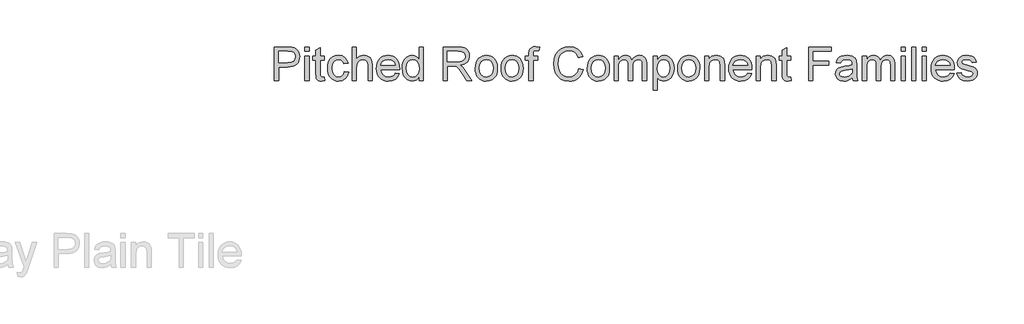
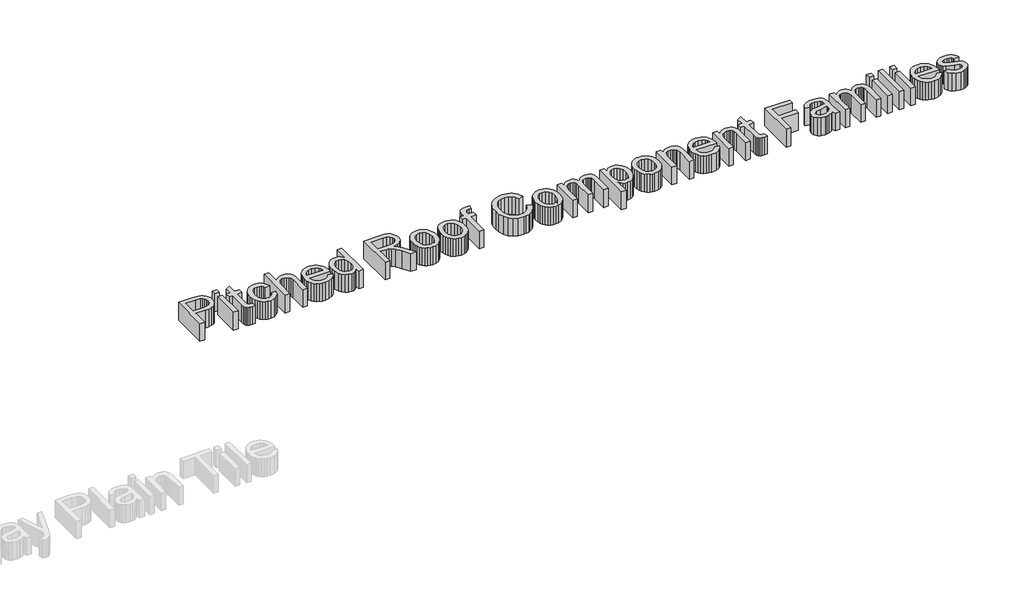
# One storey, part 4 of 4: 1 proxy.
"""IFC4 building model written with IfcOpenShell, lengths in millimetres."""

from ifc_helpers import new_model, si_unit, frame, origin, place, context, project, spatial, polyline, outline, extrude, element, save

model = new_model("IFC4")

# Units and contexts
model_context = context("Model", 3, world=origin())
ifc_project = project(units=[si_unit("LENGTHUNIT", "METRE", prefix="MILLI")], contexts=[model_context])

# Site, building, storey
site = spatial("IfcSite", under=ifc_project)
building = spatial("IfcBuilding", under=site)
storey = spatial("IfcBuildingStorey", under=building, Name="Marley Clay Plain Tile", Elevation=3000.0)

# Proxy
placement = place(None, origin())
element("IfcBuildingElementProxy", 1, Name="600mm Arial", ObjectType="600mm Arial", at=placement, inside=storey, context=model_context, shape_type="SweptSolid", body=[
    extrude(outline(polyline([(-10896.0304047, 7604.3149333), (-10896.0304047, 7899.6995487), (-10786.5592509, 7899.6995487), (-10742.4246355, 7896.8870487), (-10722.7461499, 7891.6316401), (-10706.5472316, 7883.0769526), (-10693.5033614, 7870.835366), (-10683.2900201, 7854.5192603), (-10676.6914624, 7835.273467), (-10674.4919432, 7814.242818), (-10680.432448, 7779.429116), (-10687.858079, 7764.1992483), (-10698.2539624, 7750.4207026), (-10712.5260477, 7738.9994285), (-10731.5802845, 7730.8413757), (-10755.4166727, 7725.9465439), (-10784.0352124, 7724.3149333), (-10859.1073278, 7724.3149333), (-10859.1073278, 7604.3149333), (-10896.0304047, 7604.3149333)]), holes=[polyline([(-10859.1073278, 7761.2380103), (-10781.8717509, 7761.2380103), (-10749.1313663, 7764.6274333), (-10727.4967509, 7774.7957026), (-10715.4354528, 7791.1118083), (-10711.4150201, 7812.944741), (-10713.7858134, 7829.5312795), (-10720.8981932, 7843.5216641), (-10731.8687461, 7854.0505103), (-10745.8140586, 7860.2524333), (-10782.7371355, 7862.7764718), (-10859.1073278, 7862.7764718), (-10859.1073278, 7761.2380103)])]), frame((0.0, 0.0, 3000.0), z_axis=(0.0, 0.0, 1.0), x_axis=(1.0, 0.0, 0.0)), (0.0, 0.0, 1.0), 150.0),
    extrude(outline(polyline([(-10628.338097, 7604.3149333), (-10628.338097, 7821.2380103), (-10591.4150201, 7821.2380103), (-10591.4150201, 7604.3149333), (-10628.338097, 7604.3149333)])), frame((0.0, 0.0, 3000.0), z_axis=(0.0, 0.0, 1.0), x_axis=(1.0, 0.0, 0.0)), (0.0, 0.0, 1.0), 150.0),
    extrude(outline(polyline([(-10628.338097, 7862.7764718), (-10628.338097, 7899.6995487), (-10591.4150201, 7899.6995487), (-10591.4150201, 7862.7764718), (-10628.338097, 7862.7764718)])), frame((0.0, 0.0, 3000.0), z_axis=(0.0, 0.0, 1.0), x_axis=(1.0, 0.0, 0.0)), (0.0, 0.0, 1.0), 150.0),
    extrude(outline(polyline([(-10457.5688663, 7635.1082026), (-10452.9534816, 7603.2332026), (-10480.5736739, 7599.6995487), (-10498.2960297, 7601.2320007), (-10511.5111739, 7605.8293564), (-10520.8501163, 7612.914693), (-10526.9438663, 7621.9110872), (-10530.2972316, 7637.3618083), (-10531.4150201, 7663.8101257), (-10531.4150201, 7784.3149333), (-10559.1073278, 7784.3149333), (-10559.1073278, 7821.2380103), (-10531.4150201, 7821.2380103), (-10531.4150201, 7873.9543564), (-10494.4919432, 7895.6610872), (-10494.4919432, 7821.2380103), (-10457.5688663, 7821.2380103), (-10457.5688663, 7784.3149333), (-10494.4919432, 7784.3149333), (-10494.4919432, 7664.8918564), (-10492.5448278, 7645.8533949), (-10486.2347316, 7639.1106064), (-10473.650597, 7636.6226257), (-10457.5688663, 7635.1082026)])), frame((0.0, 0.0, 3000.0), z_axis=(0.0, 0.0, 1.0), x_axis=(1.0, 0.0, 0.0)), (0.0, 0.0, 1.0), 150.0),
    extrude(outline(polyline([(-10282.1842509, 7682.7764718), (-10245.2611739, 7678.1610872), (-10255.5556451, 7645.3215439), (-10274.900597, 7620.5048372), (-10301.4751163, 7604.9008708), (-10333.4582893, 7599.6995487), (-10354.1666727, 7601.5137014), (-10372.7341307, 7606.9561593), (-10389.1606631, 7616.0269225), (-10403.4462701, 7628.725991), (-10415.0095213, 7644.8144826), (-10423.2689864, 7664.0535151), (-10428.2246655, 7686.4430884), (-10429.8765586, 7711.9832026), (-10427.0550441, 7744.8407747), (-10418.5905009, 7773.3173372), (-10404.3477124, 7796.3131305), (-10384.1914624, 7812.7283949), (-10360.0778807, 7822.5721449), (-10333.963097, 7825.8533949), (-10302.7641788, 7821.3461833), (-10277.8212701, 7807.8245487), (-10259.9276403, 7786.0096449), (-10249.8765586, 7756.6226257), (-10286.7996355, 7752.007241), (-10293.4973518, 7768.1160151), (-10303.9270393, 7779.663491), (-10317.5117749, 7786.6136112), (-10333.6746355, 7788.930318), (-10357.5358134, 7784.3690199), (-10376.4751163, 7770.6851257), (-10388.8338903, 7747.1394526), (-10392.9534816, 7712.992818), (-10388.9240345, 7678.3864478), (-10376.8356932, 7654.7596449), (-10358.2389384, 7641.1568805), (-10334.6842509, 7636.6226257), (-10315.5646595, 7639.4531545), (-10299.8885778, 7647.944741), (-10288.4853326, 7662.3137314), (-10282.1842509, 7682.7764718)])), frame((0.0, 0.0, 3000.0), z_axis=(0.0, 0.0, 1.0), x_axis=(1.0, 0.0, 0.0)), (0.0, 0.0, 1.0), 150.0),
    extrude(outline(polyline([(-10212.9534816, 7604.3149333), (-10212.9534816, 7899.6995487), (-10176.0304047, 7899.6995487), (-10176.0304047, 7791.0937795), (-10162.4682052, 7806.3011112), (-10147.2383374, 7817.163491), (-10130.3408013, 7823.6809189), (-10111.775597, 7825.8533949), (-10089.4739143, 7823.4826016), (-10070.3092509, 7816.3702218), (-10055.2191066, 7805.0751497), (-10045.1409816, 7790.1562795), (-10039.4618951, 7769.6574814), (-10037.5688663, 7741.6226257), (-10037.5688663, 7604.3149333), (-10074.4919432, 7604.3149333), (-10074.4919432, 7737.8005103), (-10077.4306451, 7760.913491), (-10086.2467509, 7776.742818), (-10100.4534816, 7785.883443), (-10119.5640586, 7788.930318), (-10135.1680249, 7786.8750295), (-10149.8164624, 7780.7091641), (-10161.9498759, 7771.0276737), (-10170.0087701, 7758.4255103), (-10174.5249961, 7741.6767122), (-10176.0304047, 7719.555318), (-10176.0304047, 7604.3149333), (-10212.9534816, 7604.3149333)])), frame((0.0, 0.0, 3000.0), z_axis=(0.0, 0.0, 1.0), x_axis=(1.0, 0.0, 0.0)), (0.0, 0.0, 1.0), 150.0),
    extrude(outline(polyline([(-9834.9246355, 7668.930318), (-9798.7227124, 7664.3149333), (-9811.7665826, 7637.0372891), (-9832.5808855, 7616.6466641), (-9860.6968711, 7603.9363276), (-9895.6457893, 7599.6995487), (-9918.5559456, 7601.527223), (-9938.9691066, 7607.0102458), (-9956.8852725, 7616.1486172), (-9972.3044432, 7628.9423372), (-9984.7037821, 7645.035336), (-9993.5604528, 7664.0715439), (-9998.8744552, 7686.050961), (-10000.6457893, 7710.9735872), (-9998.8564263, 7736.7413156), (-9993.4883374, 7759.4531545), (-9984.5415225, 7779.109104), (-9972.0159816, 7795.7091641), (-9956.6373759, 7808.8972651), (-9939.1313663, 7818.3173372), (-9919.4979528, 7823.9693805), (-9897.7371355, 7825.8533949), (-9876.6771896, 7823.9738877), (-9857.6319672, 7818.335366), (-9840.6014684, 7808.93783), (-9825.5856932, 7795.7812795), (-9813.3283314, 7779.2172771), (-9804.573073, 7759.5973853), (-9799.3199179, 7736.921604), (-9797.5688663, 7711.1899333), (-9797.7852124, 7701.2380103), (-9963.7227124, 7701.2380103), (-9957.3314864, 7673.5997891), (-9942.4847316, 7653.2812795), (-9921.057448, 7640.7872891), (-9894.9246355, 7636.6226257), (-9875.2731932, 7638.5517122), (-9858.7227124, 7644.3389718), (-9845.2731932, 7654.3449814), (-9834.9246355, 7668.930318)]), holes=[polyline([(-9963.7227124, 7738.1610872), (-9834.4919432, 7738.1610872), (-9839.4859336, 7757.6682987), (-9849.275597, 7771.6226257), (-9870.8020393, 7784.6033949), (-9897.8813663, 7788.930318), (-9922.7701884, 7785.4777939), (-9943.3501163, 7775.1202218), (-9957.6560057, 7758.9753901), (-9963.7227124, 7738.1610872)])]), frame((0.0, 0.0, 3000.0), z_axis=(0.0, 0.0, 1.0), x_axis=(1.0, 0.0, 0.0)), (0.0, 0.0, 1.0), 150.0),
    extrude(outline(polyline([(-9626.7996355, 7604.3149333), (-9626.7996355, 7639.1466641), (-9637.846811, 7621.8885511), (-9651.228722, 7609.5613276), (-9666.9453687, 7602.1649934), (-9684.9967509, 7599.6995487), (-9708.8669432, 7603.2692603), (-9730.7179047, 7613.9783949), (-9749.2155009, 7631.0787555), (-9763.025597, 7653.8221449), (-9771.6253566, 7681.289092), (-9774.4919432, 7712.5601257), (-9771.8507172, 7743.4435391), (-9763.9270393, 7771.3341641), (-9750.7299239, 7794.6454622), (-9732.2683855, 7811.7908949), (-9709.9396595, 7822.3377699), (-9685.1409816, 7825.8533949), (-9667.0760778, 7823.3383708), (-9651.1025201, 7815.7932987), (-9637.5628566, 7804.2277939), (-9626.7996355, 7789.6514718), (-9626.7996355, 7899.6995487), (-9589.8765586, 7899.6995487), (-9589.8765586, 7604.3149333), (-9626.7996355, 7604.3149333)]), holes=[polyline([(-9737.5688663, 7712.7043564), (-9733.4042028, 7679.3059189), (-9720.9102124, 7655.5529141), (-9702.7551643, 7641.3551978), (-9681.6073278, 7636.6226257), (-9660.4685057, 7641.1388516), (-9642.7731932, 7654.6875295), (-9630.7930249, 7677.5210632), (-9626.7996355, 7709.8918564), (-9630.8651403, 7745.2824814), (-9643.0616547, 7769.819741), (-9661.2076884, 7784.1526737), (-9683.1217509, 7788.930318), (-9704.4859336, 7784.3419766), (-9721.9919432, 7770.5769526), (-9733.6746355, 7746.9321208), (-9737.5688663, 7712.7043564)])]), frame((0.0, 0.0, 3000.0), z_axis=(0.0, 0.0, 1.0), x_axis=(1.0, 0.0, 0.0)), (0.0, 0.0, 1.0), 150.0),
    extrude(outline(polyline([(-9414.4919432, 7604.3149333), (-9414.4919432, 7899.6995487), (-9287.2082893, 7899.6995487), (-9252.9985538, 7897.7073612), (-9228.1097316, 7891.7307987), (-9209.9186259, 7880.6971449), (-9195.8020393, 7863.5336833), (-9186.7425441, 7842.2506305), (-9183.7227124, 7818.8582026), (-9188.7257172, 7789.7596449), (-9203.7347316, 7765.6370487), (-9215.1041727, 7755.8068204), (-9229.2004768, 7747.9507507), (-9265.5736739, 7738.1610872), (-9244.588097, 7722.367818), (-9214.6602124, 7684.3630103), (-9165.4054047, 7604.3149333), (-9208.3140586, 7604.3149333), (-9246.7515586, 7665.5408949), (-9274.5159816, 7706.069741), (-9294.0231932, 7725.2163757), (-9311.5832893, 7732.2476257), (-9333.0015586, 7733.5457026), (-9377.5688663, 7733.5457026), (-9377.5688663, 7604.3149333), (-9414.4919432, 7604.3149333)]), holes=[polyline([(-9377.5688663, 7770.4687795), (-9294.9246355, 7770.4687795), (-9271.1896595, 7771.7758708), (-9252.7731932, 7775.6971449), (-9238.9090105, 7782.4940199), (-9228.8308855, 7792.4279141), (-9222.6920634, 7804.4441401), (-9220.6457893, 7817.4880103), (-9224.5490345, 7835.4988276), (-9236.2587701, 7850.0120487), (-9256.4060057, 7859.585366), (-9285.6217509, 7862.7764718), (-9377.5688663, 7862.7764718), (-9377.5688663, 7770.4687795)])]), frame((0.0, 0.0, 3000.0), z_axis=(0.0, 0.0, 1.0), x_axis=(1.0, 0.0, 0.0)), (0.0, 0.0, 1.0), 150.0),
    extrude(outline(polyline([(-9132.9534816, 7712.7764718), (-9130.9567869, 7740.8699213), (-9124.9667028, 7765.0781545), (-9114.9832292, 7785.4011713), (-9101.0063663, 7801.8389718), (-9086.9348518, 7812.3452819), (-9071.4030009, 7819.8497891), (-9054.4108134, 7824.3524934), (-9035.9582893, 7825.8533949), (-9015.5879468, 7824.0257206), (-8997.1692268, 7818.5426978), (-8980.7021295, 7809.4043264), (-8966.1866547, 7796.6106064), (-8954.3394492, 7780.5942302), (-8945.8771595, 7761.7878901), (-8940.7997857, 7740.191586), (-8939.1073278, 7715.805318), (-8942.1001163, 7678.5036353), (-8951.0784816, 7650.1082026), (-8965.7810057, 7628.8431785), (-8985.9462701, 7612.9327218), (-9009.8975922, 7603.007842), (-9035.9582893, 7599.6995487), (-9056.6261078, 7601.5204622), (-9075.2161018, 7606.9832026), (-9091.7282713, 7616.0877699), (-9106.1626163, 7628.8341641), (-9117.8836199, 7645.0060391), (-9126.2557653, 7664.3870487), (-9131.2790526, 7686.977193), (-9132.9534816, 7712.7764718)]), holes=[polyline([(-9096.0304047, 7712.8485872), (-9091.7575682, 7679.4321208), (-9078.9390586, 7655.6250295), (-9059.6481932, 7641.3732266), (-9035.9582893, 7636.6226257), (-9012.3765586, 7641.4002699), (-8993.1217509, 7655.7332026), (-8980.3032413, 7679.8557987), (-8976.0304047, 7714.0024333), (-8980.3302845, 7746.445342), (-8993.2299239, 7769.9279141), (-9012.5117749, 7784.179717), (-9035.9582893, 7788.930318), (-9059.6481932, 7784.1977458), (-9078.9390586, 7770.0000295), (-9091.7575682, 7746.2470247), (-9096.0304047, 7712.8485872)])]), frame((0.0, 0.0, 3000.0), z_axis=(0.0, 0.0, 1.0), x_axis=(1.0, 0.0, 0.0)), (0.0, 0.0, 1.0), 150.0),
    extrude(outline(polyline([(-8906.7996355, 7712.7764718), (-8904.8029408, 7740.8699213), (-8898.8128566, 7765.0781545), (-8888.8293831, 7785.4011713), (-8874.8525201, 7801.8389718), (-8860.7810057, 7812.3452819), (-8845.2491547, 7819.8497891), (-8828.2569672, 7824.3524934), (-8809.8044432, 7825.8533949), (-8789.4341006, 7824.0257206), (-8771.0153807, 7818.5426978), (-8754.5482833, 7809.4043264), (-8740.0328086, 7796.6106064), (-8728.185603, 7780.5942302), (-8719.7233134, 7761.7878901), (-8714.6459396, 7740.191586), (-8712.9534816, 7715.805318), (-8715.9462701, 7678.5036353), (-8724.9246355, 7650.1082026), (-8739.6271595, 7628.8431785), (-8759.7924239, 7612.9327218), (-8783.7437461, 7603.007842), (-8809.8044432, 7599.6995487), (-8830.4722617, 7601.5204622), (-8849.0622557, 7606.9832026), (-8865.5744251, 7616.0877699), (-8880.0087701, 7628.8341641), (-8891.7297737, 7645.0060391), (-8900.1019191, 7664.3870487), (-8905.1252064, 7686.977193), (-8906.7996355, 7712.7764718)]), holes=[polyline([(-8869.8765586, 7712.8485872), (-8865.603722, 7679.4321208), (-8852.7852124, 7655.6250295), (-8833.494347, 7641.3732266), (-8809.8044432, 7636.6226257), (-8786.2227124, 7641.4002699), (-8766.9679047, 7655.7332026), (-8754.1493951, 7679.8557987), (-8749.8765586, 7714.0024333), (-8754.1764384, 7746.445342), (-8767.0760778, 7769.9279141), (-8786.3579288, 7784.179717), (-8809.8044432, 7788.930318), (-8833.494347, 7784.1977458), (-8852.7852124, 7770.0000295), (-8865.603722, 7746.2470247), (-8869.8765586, 7712.8485872)])]), frame((0.0, 0.0, 3000.0), z_axis=(0.0, 0.0, 1.0), x_axis=(1.0, 0.0, 0.0)), (0.0, 0.0, 1.0), 150.0),
    extrude(outline(polyline([(-8662.1842509, 7604.3149333), (-8662.1842509, 7784.3149333), (-8694.4919432, 7784.3149333), (-8694.4919432, 7821.2380103), (-8662.1842509, 7821.2380103), (-8662.1842509, 7843.0889718), (-8658.2900201, 7873.882241), (-8650.8621355, 7886.1598853), (-8639.3957893, 7895.8774333), (-8623.3501163, 7902.2055583), (-8602.1842509, 7904.3149333), (-8568.5063663, 7900.2764718), (-8573.9150201, 7865.6610872), (-8595.1890586, 7867.3918564), (-8609.2245153, 7865.8594045), (-8618.4462701, 7861.2620487), (-8623.557448, 7852.4820007), (-8625.2611739, 7838.4014718), (-8625.2611739, 7821.2380103), (-8583.7227124, 7821.2380103), (-8583.7227124, 7784.3149333), (-8625.2611739, 7784.3149333), (-8625.2611739, 7604.3149333), (-8662.1842509, 7604.3149333)])), frame((0.0, 0.0, 3000.0), z_axis=(0.0, 0.0, 1.0), x_axis=(1.0, 0.0, 0.0)), (0.0, 0.0, 1.0), 150.0),
    extrude(outline(polyline([(-8223.7227124, 7709.3149333), (-8186.7996355, 7699.7957026), (-8194.1058254, 7676.8337134), (-8203.8368951, 7656.7698612), (-8215.9928446, 7639.6041461), (-8230.5736739, 7625.336568), (-8247.2503566, 7614.120372), (-8265.6938663, 7606.1088035), (-8285.9042028, 7601.3018624), (-8307.8813663, 7599.6995487), (-8350.7088903, 7604.5493083), (-8384.7203086, 7619.0985872), (-8410.7900201, 7642.8425776), (-8429.7924239, 7675.2764718), (-8441.3939864, 7713.4074814), (-8445.2611739, 7754.242818), (-8440.8891788, 7797.3137314), (-8427.7731932, 7834.507241), (-8406.5983134, 7864.6424574), (-8378.0496355, 7886.538491), (-8344.1914624, 7899.8708228), (-8307.088097, 7904.3149333), (-8266.604323, 7898.5637314), (-8248.9923939, 7891.374729), (-8233.1337701, 7881.3101257), (-8219.2898699, 7868.6358468), (-8207.7221114, 7853.617818), (-8191.4150201, 7816.5505103), (-8228.338097, 7807.7524333), (-8241.1385778, 7834.6785151), (-8258.6265586, 7853.149068), (-8281.0183855, 7863.8311593), (-8308.5304047, 7867.3918564), (-8340.2431451, 7863.4435391), (-8366.2948278, 7851.5985872), (-8386.0634576, 7833.100991), (-8398.9270393, 7809.194741), (-8405.9853326, 7782.1695007), (-8408.338097, 7754.3149333), (-8405.5526403, 7720.2043564), (-8397.1962701, 7690.7091641), (-8382.9534816, 7666.9561593), (-8362.5087701, 7650.0721449), (-8337.9985538, 7639.9850055), (-8311.5592509, 7636.6226257), (-8280.7389384, 7641.2019526), (-8255.056847, 7654.9399333), (-8235.666823, 7677.6923372), (-8223.7227124, 7709.3149333)])), frame((0.0, 0.0, 3000.0), z_axis=(0.0, 0.0, 1.0), x_axis=(1.0, 0.0, 0.0)), (0.0, 0.0, 1.0), 150.0),
    extrude(outline(polyline([(-8149.8765586, 7712.7764718), (-8147.8798638, 7740.8699213), (-8141.8897797, 7765.0781545), (-8131.9063062, 7785.4011713), (-8117.9294432, 7801.8389718), (-8103.8579288, 7812.3452819), (-8088.3260778, 7819.8497891), (-8071.3338903, 7824.3524934), (-8052.8813663, 7825.8533949), (-8032.5110237, 7824.0257206), (-8014.0923038, 7818.5426978), (-7997.6252064, 7809.4043264), (-7983.1097316, 7796.6106064), (-7971.2625261, 7780.5942302), (-7962.8002364, 7761.7878901), (-7957.7228626, 7740.191586), (-7956.0304047, 7715.805318), (-7959.0231932, 7678.5036353), (-7968.0015586, 7650.1082026), (-7982.7040826, 7628.8431785), (-8002.869347, 7612.9327218), (-8026.8206691, 7603.007842), (-8052.8813663, 7599.6995487), (-8073.5491848, 7601.5204622), (-8092.1391788, 7606.9832026), (-8108.6513482, 7616.0877699), (-8123.0856932, 7628.8341641), (-8134.8066968, 7645.0060391), (-8143.1788422, 7664.3870487), (-8148.2021295, 7686.977193), (-8149.8765586, 7712.7764718)]), holes=[polyline([(-8112.9534816, 7712.8485872), (-8108.6806451, 7679.4321208), (-8095.8621355, 7655.6250295), (-8076.5712701, 7641.3732266), (-8052.8813663, 7636.6226257), (-8029.2996355, 7641.4002699), (-8010.0448278, 7655.7332026), (-7997.2263182, 7679.8557987), (-7992.9534816, 7714.0024333), (-7997.2533614, 7746.445342), (-8010.1530009, 7769.9279141), (-8029.4348518, 7784.179717), (-8052.8813663, 7788.930318), (-8076.5712701, 7784.1977458), (-8095.8621355, 7770.0000295), (-8108.6806451, 7746.2470247), (-8112.9534816, 7712.8485872)])]), frame((0.0, 0.0, 3000.0), z_axis=(0.0, 0.0, 1.0), x_axis=(1.0, 0.0, 0.0)), (0.0, 0.0, 1.0), 150.0),
    extrude(outline(polyline([(-7914.4919432, 7604.3149333), (-7914.4919432, 7821.2380103), (-7877.5688663, 7821.2380103), (-7877.5688663, 7785.5408949), (-7866.463097, 7801.9381305), (-7852.1842509, 7814.7836833), (-7835.2191066, 7823.085967), (-7816.0544432, 7825.8533949), (-7795.5195874, 7823.0318805), (-7779.0592509, 7814.5673372), (-7766.7635778, 7801.0186593), (-7758.7227124, 7782.944741), (-7745.2641788, 7801.7172771), (-7729.9126163, 7815.1262314), (-7712.6680249, 7823.171604), (-7693.5304047, 7825.8533949), (-7665.7749961, 7821.3912555), (-7645.2491547, 7808.0048372), (-7632.5658614, 7785.3335632), (-7628.338097, 7753.0168564), (-7628.338097, 7604.3149333), (-7665.2611739, 7604.3149333), (-7665.2611739, 7737.1514718), (-7668.6866547, 7767.9807987), (-7673.5003566, 7776.4813997), (-7681.0905009, 7783.1610872), (-7690.8531211, 7787.4880103), (-7702.1842509, 7788.930318), (-7722.1872557, 7785.2344045), (-7738.494347, 7774.1466641), (-7749.338698, 7754.9098853), (-7752.9534816, 7726.7668564), (-7752.9534816, 7604.3149333), (-7789.8765586, 7604.3149333), (-7789.8765586, 7741.2620487), (-7792.0129768, 7762.1394526), (-7798.4222316, 7777.0312795), (-7809.6992749, 7785.9555583), (-7826.4390586, 7788.930318), (-7840.6638182, 7786.9471449), (-7853.7707893, 7780.9976257), (-7864.588097, 7771.225991), (-7871.9438663, 7757.7764718), (-7876.1626163, 7739.116616), (-7877.5688663, 7713.7139718), (-7877.5688663, 7604.3149333), (-7914.4919432, 7604.3149333)])), frame((0.0, 0.0, 3000.0), z_axis=(0.0, 0.0, 1.0), x_axis=(1.0, 0.0, 0.0)), (0.0, 0.0, 1.0), 150.0),
    extrude(outline(polyline([(-7572.9534816, 7521.2380103), (-7572.9534816, 7821.2380103), (-7536.0304047, 7821.2380103), (-7536.0304047, 7785.0360872), (-7523.9871355, 7802.8936593), (-7510.5015586, 7815.649068), (-7494.7804047, 7823.3023132), (-7476.0304047, 7825.8533949), (-7451.0604528, 7822.2836833), (-7429.2275201, 7811.5745487), (-7411.4510778, 7794.3750295), (-7398.650597, 7771.3341641), (-7390.916222, 7744.1286353), (-7388.338097, 7714.4351257), (-7391.2497557, 7682.8576016), (-7399.9847316, 7654.6154141), (-7414.2635778, 7631.1418564), (-7433.806847, 7613.8702218), (-7456.5682653, 7603.242217), (-7480.5015586, 7599.6995487), (-7497.4757172, 7602.070342), (-7512.6289624, 7609.1827218), (-7525.6007172, 7619.9188997), (-7536.0304047, 7633.1610872), (-7536.0304047, 7521.2380103), (-7572.9534816, 7521.2380103)]), holes=[polyline([(-7536.0304047, 7711.0457026), (-7532.0370153, 7677.944741), (-7520.056847, 7654.7957026), (-7502.3795634, 7641.1658949), (-7481.2948278, 7636.6226257), (-7459.8675441, 7641.3281545), (-7441.7395393, 7655.444741), (-7429.3807653, 7679.4411353), (-7425.2611739, 7713.7860872), (-7429.2816066, 7746.7067603), (-7441.3429047, 7770.180318), (-7458.9931451, 7784.242818), (-7479.7804047, 7788.930318), (-7500.6487941, 7783.945342), (-7518.9751163, 7768.9904141), (-7531.7665826, 7744.5342843), (-7536.0304047, 7711.0457026)])]), frame((0.0, 0.0, 3000.0), z_axis=(0.0, 0.0, 1.0), x_axis=(1.0, 0.0, 0.0)), (0.0, 0.0, 1.0), 150.0),
    extrude(outline(polyline([(-7356.0304047, 7712.7764718), (-7354.03371, 7740.8699213), (-7348.0436259, 7765.0781545), (-7338.0601523, 7785.4011713), (-7324.0832893, 7801.8389718), (-7310.0117749, 7812.3452819), (-7294.4799239, 7819.8497891), (-7277.4877364, 7824.3524934), (-7259.0352124, 7825.8533949), (-7238.6648699, 7824.0257206), (-7220.2461499, 7818.5426978), (-7203.7790526, 7809.4043264), (-7189.2635778, 7796.6106064), (-7177.4163723, 7780.5942302), (-7168.9540826, 7761.7878901), (-7163.8767088, 7740.191586), (-7162.1842509, 7715.805318), (-7165.1770393, 7678.5036353), (-7174.1554047, 7650.1082026), (-7188.8579288, 7628.8431785), (-7209.0231932, 7612.9327218), (-7232.9745153, 7603.007842), (-7259.0352124, 7599.6995487), (-7279.7030309, 7601.5204622), (-7298.2930249, 7606.9832026), (-7314.8051944, 7616.0877699), (-7329.2395393, 7628.8341641), (-7340.9605429, 7645.0060391), (-7349.3326884, 7664.3870487), (-7354.3559756, 7686.977193), (-7356.0304047, 7712.7764718)]), holes=[polyline([(-7319.1073278, 7712.8485872), (-7314.8344913, 7679.4321208), (-7302.0159816, 7655.6250295), (-7282.7251163, 7641.3732266), (-7259.0352124, 7636.6226257), (-7235.4534816, 7641.4002699), (-7216.1986739, 7655.7332026), (-7203.3801643, 7679.8557987), (-7199.1073278, 7714.0024333), (-7203.4072076, 7746.445342), (-7216.306847, 7769.9279141), (-7235.588698, 7784.179717), (-7259.0352124, 7788.930318), (-7282.7251163, 7784.1977458), (-7302.0159816, 7770.0000295), (-7314.8344913, 7746.2470247), (-7319.1073278, 7712.8485872)])]), frame((0.0, 0.0, 3000.0), z_axis=(0.0, 0.0, 1.0), x_axis=(1.0, 0.0, 0.0)), (0.0, 0.0, 1.0), 150.0),
    extrude(outline(polyline([(-7120.6457893, 7604.3149333), (-7120.6457893, 7821.2380103), (-7083.7227124, 7821.2380103), (-7083.7227124, 7790.9495487), (-7070.8951884, 7806.2199814), (-7055.4895393, 7817.1274333), (-7037.5057653, 7823.6719045), (-7016.9438663, 7825.8533949), (-6998.7437461, 7824.0955824), (-6982.0760778, 7818.8221449), (-6968.1758374, 7810.6911353), (-6958.2780009, 7800.3606064), (-6947.2082893, 7773.2091641), (-6945.2611739, 7737.5120487), (-6945.2611739, 7604.3149333), (-6982.1842509, 7604.3149333), (-6982.1842509, 7732.5360872), (-6986.4390586, 7765.2043564), (-6992.3254768, 7774.9309189), (-7001.4751163, 7782.475991), (-7013.2028807, 7787.3167362), (-7026.8236739, 7788.930318), (-7048.4492749, 7785.3065199), (-7066.8837701, 7774.4351257), (-7074.2508074, 7765.5604261), (-7079.5129768, 7753.4315199), (-7083.7227124, 7719.4110872), (-7083.7227124, 7604.3149333), (-7120.6457893, 7604.3149333)])), frame((0.0, 0.0, 3000.0), z_axis=(0.0, 0.0, 1.0), x_axis=(1.0, 0.0, 0.0)), (0.0, 0.0, 1.0), 150.0),
    extrude(outline(polyline([(-6742.6169432, 7668.930318), (-6706.4150201, 7664.3149333), (-6719.4588903, 7637.0372891), (-6740.2731932, 7616.6466641), (-6768.3891788, 7603.9363276), (-6803.338097, 7599.6995487), (-6826.2482533, 7601.527223), (-6846.6614143, 7607.0102458), (-6864.5775802, 7616.1486172), (-6879.9967509, 7628.9423372), (-6892.3960898, 7645.035336), (-6901.2527605, 7664.0715439), (-6906.5667629, 7686.050961), (-6908.338097, 7710.9735872), (-6906.548734, 7736.7413156), (-6901.1806451, 7759.4531545), (-6892.2338302, 7779.109104), (-6879.7082893, 7795.7091641), (-6864.3296836, 7808.8972651), (-6846.8236739, 7818.3173372), (-6827.1902605, 7823.9693805), (-6805.4294432, 7825.8533949), (-6784.3694973, 7823.9738877), (-6765.3242749, 7818.335366), (-6748.2937761, 7808.93783), (-6733.2780009, 7795.7812795), (-6721.0206391, 7779.2172771), (-6712.2653807, 7759.5973853), (-6707.0122256, 7736.921604), (-6705.2611739, 7711.1899333), (-6705.4775201, 7701.2380103), (-6871.4150201, 7701.2380103), (-6865.0237941, 7673.5997891), (-6850.1770393, 7653.2812795), (-6828.7497557, 7640.7872891), (-6802.6169432, 7636.6226257), (-6782.9655009, 7638.5517122), (-6766.4150201, 7644.3389718), (-6752.9655009, 7654.3449814), (-6742.6169432, 7668.930318)]), holes=[polyline([(-6871.4150201, 7738.1610872), (-6742.1842509, 7738.1610872), (-6747.1782413, 7757.6682987), (-6756.9679047, 7771.6226257), (-6778.494347, 7784.6033949), (-6805.5736739, 7788.930318), (-6830.4624961, 7785.4777939), (-6851.0424239, 7775.1202218), (-6865.3483134, 7758.9753901), (-6871.4150201, 7738.1610872)])]), frame((0.0, 0.0, 3000.0), z_axis=(0.0, 0.0, 1.0), x_axis=(1.0, 0.0, 0.0)), (0.0, 0.0, 1.0), 150.0),
    extrude(outline(polyline([(-6668.338097, 7604.3149333), (-6668.338097, 7821.2380103), (-6631.4150201, 7821.2380103), (-6631.4150201, 7790.9495487), (-6618.5874961, 7806.2199814), (-6603.181847, 7817.1274333), (-6585.198073, 7823.6719045), (-6564.6361739, 7825.8533949), (-6546.4360538, 7824.0955824), (-6529.7683855, 7818.8221449), (-6515.8681451, 7810.6911353), (-6505.9703086, 7800.3606064), (-6494.900597, 7773.2091641), (-6492.9534816, 7737.5120487), (-6492.9534816, 7604.3149333), (-6529.8765586, 7604.3149333), (-6529.8765586, 7732.5360872), (-6534.1313663, 7765.2043564), (-6540.0177845, 7774.9309189), (-6549.1674239, 7782.475991), (-6560.8951884, 7787.3167362), (-6574.5159816, 7788.930318), (-6596.1415826, 7785.3065199), (-6614.5760778, 7774.4351257), (-6621.9431151, 7765.5604261), (-6627.2052845, 7753.4315199), (-6631.4150201, 7719.4110872), (-6631.4150201, 7604.3149333), (-6668.338097, 7604.3149333)])), frame((0.0, 0.0, 3000.0), z_axis=(0.0, 0.0, 1.0), x_axis=(1.0, 0.0, 0.0)), (0.0, 0.0, 1.0), 150.0),
    extrude(outline(polyline([(-6363.7227124, 7635.1082026), (-6359.1073278, 7603.2332026), (-6386.7275201, 7599.6995487), (-6404.4498759, 7601.2320007), (-6417.6650201, 7605.8293564), (-6427.0039624, 7612.914693), (-6433.0977124, 7621.9110872), (-6436.4510778, 7637.3618083), (-6437.5688663, 7663.8101257), (-6437.5688663, 7784.3149333), (-6465.2611739, 7784.3149333), (-6465.2611739, 7821.2380103), (-6437.5688663, 7821.2380103), (-6437.5688663, 7873.9543564), (-6400.6457893, 7895.6610872), (-6400.6457893, 7821.2380103), (-6363.7227124, 7821.2380103), (-6363.7227124, 7784.3149333), (-6400.6457893, 7784.3149333), (-6400.6457893, 7664.8918564), (-6398.6986739, 7645.8533949), (-6392.3885778, 7639.1106064), (-6379.8044432, 7636.6226257), (-6363.7227124, 7635.1082026)])), frame((0.0, 0.0, 3000.0), z_axis=(0.0, 0.0, 1.0), x_axis=(1.0, 0.0, 0.0)), (0.0, 0.0, 1.0), 150.0),
    extrude(outline(polyline([(-6206.7996355, 7604.3149333), (-6206.7996355, 7899.6995487), (-6008.338097, 7899.6995487), (-6008.338097, 7862.7764718), (-6169.8765586, 7862.7764718), (-6169.8765586, 7775.0841641), (-6031.4150201, 7775.0841641), (-6031.4150201, 7738.1610872), (-6169.8765586, 7738.1610872), (-6169.8765586, 7604.3149333), (-6206.7996355, 7604.3149333)])), frame((0.0, 0.0, 3000.0), z_axis=(0.0, 0.0, 1.0), x_axis=(1.0, 0.0, 0.0)), (0.0, 0.0, 1.0), 150.0),
    extrude(outline(polyline([(-5823.7227124, 7632.007241), (-5841.3639384, 7616.8810391), (-5859.5280009, 7606.9832026), (-5878.6295634, 7601.5204622), (-5899.0832893, 7599.6995487), (-5929.9396595, 7604.0805583), (-5952.7010778, 7617.2235872), (-5966.7365345, 7637.1815199), (-5971.4150201, 7662.007241), (-5969.6481932, 7677.3137314), (-5964.3477124, 7691.2139718), (-5956.1716307, 7703.1130103), (-5945.7780009, 7712.4158949), (-5919.9246355, 7724.5312795), (-5887.9775201, 7730.0841641), (-5850.2251163, 7735.9255103), (-5823.9390586, 7742.7764718), (-5823.7227124, 7750.9976257), (-5826.2647797, 7767.475991), (-5833.8909816, 7778.257241), (-5850.9462701, 7786.2620487), (-5874.7082893, 7788.930318), (-5896.7034816, 7787.1544766), (-5912.0640586, 7781.8269526), (-5922.5388182, 7771.9741882), (-5929.8765586, 7756.6226257), (-5966.7996355, 7761.2380103), (-5960.3903807, 7781.430318), (-5950.8260778, 7797.2957026), (-5937.2142989, 7809.429116), (-5918.6626163, 7818.4255103), (-5895.9733134, 7823.9964237), (-5869.9486739, 7825.8533949), (-5844.9877364, 7824.2127699), (-5825.2010778, 7819.2908949), (-5810.2822076, 7811.8900535), (-5799.9246355, 7802.8125295), (-5793.0556451, 7791.5895728), (-5788.6025201, 7777.7524333), (-5786.7996355, 7745.444741), (-5786.7996355, 7699.507241), (-5784.9246355, 7635.3606064), (-5777.5688663, 7604.3149333), (-5814.4919432, 7604.3149333), (-5823.7227124, 7632.007241)]), holes=[polyline([(-5823.7227124, 7705.8533949), (-5883.2900201, 7694.5312795), (-5915.056847, 7688.5457026), (-5929.4438663, 7678.8101257), (-5934.4919432, 7664.6033949), (-5931.7425441, 7653.6238276), (-5923.494347, 7644.6274333), (-5909.9276403, 7638.6238276), (-5891.2227124, 7636.6226257), (-5871.3909816, 7638.8311593), (-5853.8669432, 7645.4567603), (-5839.6602124, 7655.2193805), (-5829.7804047, 7666.8389718), (-5825.3993951, 7678.8101257), (-5823.9390586, 7695.3966641), (-5823.7227124, 7705.8533949)])]), frame((0.0, 0.0, 3000.0), z_axis=(0.0, 0.0, 1.0), x_axis=(1.0, 0.0, 0.0)), (0.0, 0.0, 1.0), 150.0),
    extrude(outline(polyline([(-5736.0304047, 7604.3149333), (-5736.0304047, 7821.2380103), (-5699.1073278, 7821.2380103), (-5699.1073278, 7785.5408949), (-5688.0015586, 7801.9381305), (-5673.7227124, 7814.7836833), (-5656.7575682, 7823.085967), (-5637.5929047, 7825.8533949), (-5617.0580489, 7823.0318805), (-5600.5977124, 7814.5673372), (-5588.3020393, 7801.0186593), (-5580.2611739, 7782.944741), (-5566.8026403, 7801.7172771), (-5551.4510778, 7815.1262314), (-5534.2064864, 7823.171604), (-5515.0688663, 7825.8533949), (-5487.3134576, 7821.3912555), (-5466.7876163, 7808.0048372), (-5454.104323, 7785.3335632), (-5449.8765586, 7753.0168564), (-5449.8765586, 7604.3149333), (-5486.7996355, 7604.3149333), (-5486.7996355, 7737.1514718), (-5490.2251163, 7767.9807987), (-5495.0388182, 7776.4813997), (-5502.6289624, 7783.1610872), (-5512.3915826, 7787.4880103), (-5523.7227124, 7788.930318), (-5543.7257172, 7785.2344045), (-5560.0328086, 7774.1466641), (-5570.8771595, 7754.9098853), (-5574.4919432, 7726.7668564), (-5574.4919432, 7604.3149333), (-5611.4150201, 7604.3149333), (-5611.4150201, 7741.2620487), (-5613.5514384, 7762.1394526), (-5619.9606932, 7777.0312795), (-5631.2377364, 7785.9555583), (-5647.9775201, 7788.930318), (-5662.2022797, 7786.9471449), (-5675.3092509, 7780.9976257), (-5686.1265586, 7771.225991), (-5693.4823278, 7757.7764718), (-5697.7010778, 7739.116616), (-5699.1073278, 7713.7139718), (-5699.1073278, 7604.3149333), (-5736.0304047, 7604.3149333)])), frame((0.0, 0.0, 3000.0), z_axis=(0.0, 0.0, 1.0), x_axis=(1.0, 0.0, 0.0)), (0.0, 0.0, 1.0), 150.0),
    extrude(outline(polyline([(-5394.4919432, 7604.3149333), (-5394.4919432, 7821.2380103), (-5357.5688663, 7821.2380103), (-5357.5688663, 7604.3149333), (-5394.4919432, 7604.3149333)])), frame((0.0, 0.0, 3000.0), z_axis=(0.0, 0.0, 1.0), x_axis=(1.0, 0.0, 0.0)), (0.0, 0.0, 1.0), 150.0),
    extrude(outline(polyline([(-5394.4919432, 7862.7764718), (-5394.4919432, 7899.6995487), (-5357.5688663, 7899.6995487), (-5357.5688663, 7862.7764718), (-5394.4919432, 7862.7764718)])), frame((0.0, 0.0, 3000.0), z_axis=(0.0, 0.0, 1.0), x_axis=(1.0, 0.0, 0.0)), (0.0, 0.0, 1.0), 150.0),
    extrude(outline(polyline([(-5302.1842509, 7604.3149333), (-5302.1842509, 7899.6995487), (-5265.2611739, 7899.6995487), (-5265.2611739, 7604.3149333), (-5302.1842509, 7604.3149333)])), frame((0.0, 0.0, 3000.0), z_axis=(0.0, 0.0, 1.0), x_axis=(1.0, 0.0, 0.0)), (0.0, 0.0, 1.0), 150.0),
    extrude(outline(polyline([(-5209.8765586, 7604.3149333), (-5209.8765586, 7821.2380103), (-5172.9534816, 7821.2380103), (-5172.9534816, 7604.3149333), (-5209.8765586, 7604.3149333)])), frame((0.0, 0.0, 3000.0), z_axis=(0.0, 0.0, 1.0), x_axis=(1.0, 0.0, 0.0)), (0.0, 0.0, 1.0), 150.0),
    extrude(outline(polyline([(-5209.8765586, 7862.7764718), (-5209.8765586, 7899.6995487), (-5172.9534816, 7899.6995487), (-5172.9534816, 7862.7764718), (-5209.8765586, 7862.7764718)])), frame((0.0, 0.0, 3000.0), z_axis=(0.0, 0.0, 1.0), x_axis=(1.0, 0.0, 0.0)), (0.0, 0.0, 1.0), 150.0),
    extrude(outline(polyline([(-4965.6938663, 7668.930318), (-4929.4919432, 7664.3149333), (-4942.5358134, 7637.0372891), (-4963.3501163, 7616.6466641), (-4991.4661018, 7603.9363276), (-5026.4150201, 7599.6995487), (-5049.3251763, 7601.527223), (-5069.7383374, 7607.0102458), (-5087.6545033, 7616.1486172), (-5103.0736739, 7628.9423372), (-5115.4730129, 7645.035336), (-5124.3296836, 7664.0715439), (-5129.643686, 7686.050961), (-5131.4150201, 7710.9735872), (-5129.6256571, 7736.7413156), (-5124.2575682, 7759.4531545), (-5115.3107533, 7779.109104), (-5102.7852124, 7795.7091641), (-5087.4066066, 7808.8972651), (-5069.900597, 7818.3173372), (-5050.2671836, 7823.9693805), (-5028.5063663, 7825.8533949), (-5007.4464203, 7823.9738877), (-4988.401198, 7818.335366), (-4971.3706992, 7808.93783), (-4956.3549239, 7795.7812795), (-4944.0975622, 7779.2172771), (-4935.3423038, 7759.5973853), (-4930.0891487, 7736.921604), (-4928.338097, 7711.1899333), (-4928.5544432, 7701.2380103), (-5094.4919432, 7701.2380103), (-5088.1007172, 7673.5997891), (-5073.2539624, 7653.2812795), (-5051.8266788, 7640.7872891), (-5025.6938663, 7636.6226257), (-5006.0424239, 7638.5517122), (-4989.4919432, 7644.3389718), (-4976.0424239, 7654.3449814), (-4965.6938663, 7668.930318)]), holes=[polyline([(-5094.4919432, 7738.1610872), (-4965.2611739, 7738.1610872), (-4970.2551643, 7757.6682987), (-4980.0448278, 7771.6226257), (-5001.5712701, 7784.6033949), (-5028.650597, 7788.930318), (-5053.5394191, 7785.4777939), (-5074.119347, 7775.1202218), (-5088.4252364, 7758.9753901), (-5094.4919432, 7738.1610872)])]), frame((0.0, 0.0, 3000.0), z_axis=(0.0, 0.0, 1.0), x_axis=(1.0, 0.0, 0.0)), (0.0, 0.0, 1.0), 150.0),
    extrude(outline(polyline([(-4905.2611739, 7668.930318), (-4868.338097, 7673.5457026), (-4862.5147797, 7657.7524333), (-4851.2467509, 7646.1418564), (-4834.4618951, 7639.0024333), (-4812.088097, 7636.6226257), (-4789.9847316, 7638.804116), (-4774.4438663, 7645.3485872), (-4765.2491547, 7654.8317603), (-4762.1842509, 7665.8293564), (-4765.2671836, 7675.2404141), (-4774.5159816, 7682.4158949), (-4812.5207893, 7692.944741), (-4868.1217509, 7711.0096449), (-4882.1932653, 7720.0871689), (-4892.3885778, 7732.1033949), (-4898.5814864, 7746.2920968), (-4900.6457893, 7761.8870487), (-4898.9871355, 7776.1929382), (-4894.0111739, 7789.399068), (-4886.1686259, 7800.9826016), (-4875.9102124, 7810.4207026), (-4852.4366547, 7821.3461833), (-4820.6698278, 7825.8533949), (-4796.6373759, 7824.0414958), (-4775.7419432, 7818.6057987), (-4758.9390586, 7810.0781545), (-4747.1842509, 7798.9904141), (-4739.3957893, 7784.5222651), (-4734.4919432, 7765.8533949), (-4771.4150201, 7761.2380103), (-4776.0754768, 7772.8576016), (-4785.2972316, 7781.6106064), (-4799.1704288, 7787.1003901), (-4817.7852124, 7788.930318), (-4838.9871355, 7787.1815199), (-4853.1217509, 7781.9351257), (-4861.072472, 7774.3630103), (-4863.7227124, 7765.6370487), (-4859.3236739, 7754.8918564), (-4845.5496355, 7746.742818), (-4813.7467509, 7738.882241), (-4759.5520393, 7721.5024333), (-4745.2371355, 7713.1911353), (-4734.3837701, 7701.8149333), (-4727.541823, 7687.3377699), (-4725.2611739, 7669.7235872), (-4727.9384576, 7651.5144526), (-4735.9703086, 7634.3870487), (-4749.0502364, 7619.6845247), (-4766.8717509, 7608.7500295), (-4788.3981932, 7601.9621689), (-4812.5929047, 7599.6995487), (-4849.822472, 7604.0625295), (-4876.9919432, 7617.1514718), (-4895.1289624, 7638.8221449), (-4905.2611739, 7668.930318)])), frame((0.0, 0.0, 3000.0), z_axis=(0.0, 0.0, 1.0), x_axis=(1.0, 0.0, 0.0)), (0.0, 0.0, 1.0), 150.0),
])

save(model, "model.ifc")
